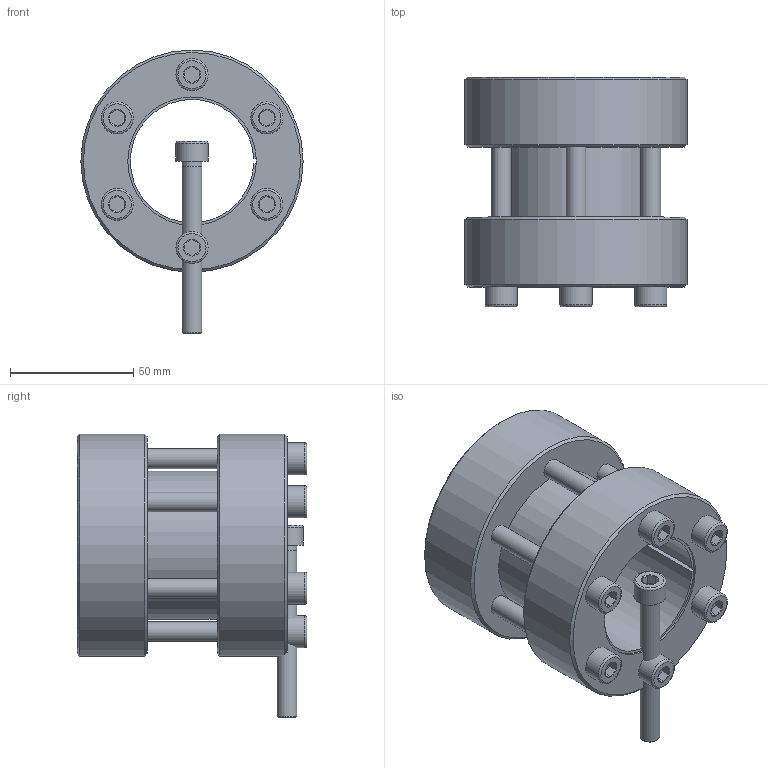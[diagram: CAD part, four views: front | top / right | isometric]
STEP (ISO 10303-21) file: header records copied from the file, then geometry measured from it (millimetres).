
FILE_DESCRIPTION( ( 'Unknown' ), '1' );
FILE_NAME( 'C:/Dokumente und Einstellungen/Sven/Desktop/homepage/cad - homepage/KBS95/KBS 95 - 50 x 90.stp', 'Unknown', ( 'Unknown' ), ( 'Unknown' ), 'XStep 1.0', 'Unknown', ' ' );
FILE_SCHEMA( ( 'automotive_design' ) );
Length unit declared in the file: millimetre
Products named in the file (3): Assem1; KBS 95 - 50 x 90; ISO EN DIN 4762 M8x70
Bounding box: 90 x 93 x 115 mm (x, y, z)
Volume: 541319.3 mm3; surface area: 132656 mm2
Topology: 9 solids, 9 shells, 239 faces, 499 edges, 306 vertices
Faces by surface type: plane 104, cone 61, cylinder 60, torus 14
Full cylindrical faces by diameter (mm): 7 x7, 8 x38, 13 x7, 90 x4
Entity records: 1850 total; most frequent: CARTESIAN_POINT 317, DIRECTION 280, ORIENTED_EDGE 206, AXIS2_PLACEMENT_3D 122, EDGE_LOOP 114, EDGE_CURVE 103, VERTEX_POINT 79, FACE_OUTER_BOUND 77
